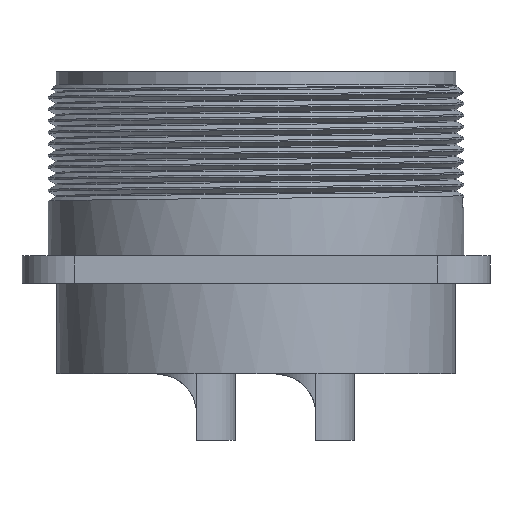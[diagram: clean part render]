
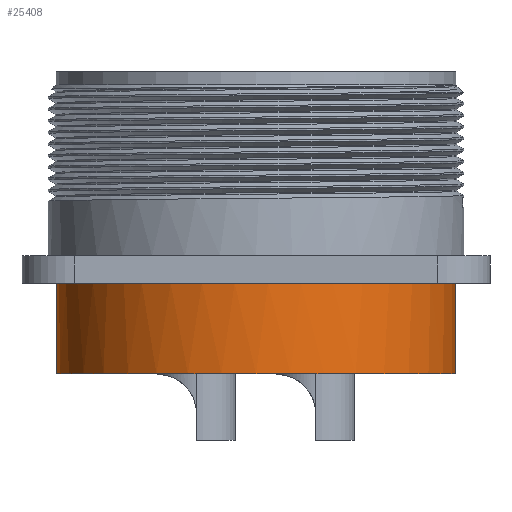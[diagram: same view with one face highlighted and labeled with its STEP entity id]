
A CAD part, front view. The second image highlights one B-rep face of the part: STEP entity #25408.
In plain terms, the highlighted cylindrical face has radius 24.21 mm (diameter 48.42 mm), a partial arc.
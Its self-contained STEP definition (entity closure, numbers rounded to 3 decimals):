
#360 = CARTESIAN_POINT ( 'NONE',  ( -24.21, 0., -14.35 ) ) ;
#706 = DIRECTION ( 'NONE',  ( 1., 0., 0. ) ) ;
#956 = LINE ( 'NONE', #5919, #10313 ) ;
#984 = CARTESIAN_POINT ( 'NONE',  ( -13.886, -19.832, -2.75 ) ) ;
#1073 = DIRECTION ( 'NONE',  ( 0., 0., -1. ) ) ;
#1591 = DIRECTION ( 'NONE',  ( 1., 0., 0. ) ) ;
#3908 = DIRECTION ( 'NONE',  ( 0., 0., -1. ) ) ;
#3914 = EDGE_CURVE ( 'NONE', #24653, #7692, #5924, .T. ) ;
#4337 = EDGE_LOOP ( 'NONE', ( #5739, #10620, #16962, #23528, #12303, #22344, #20533, #25147 ) ) ;
#4575 = VERTEX_POINT ( 'NONE', #19352 ) ;
#4648 = VERTEX_POINT ( 'NONE', #11725 ) ;
#4936 = AXIS2_PLACEMENT_3D ( 'NONE', #5841, #19723, #7846 ) ;
#5612 = EDGE_CURVE ( 'NONE', #23437, #5641, #7422, .T. ) ;
#5641 = VERTEX_POINT ( 'NONE', #13654 ) ;
#5730 = CARTESIAN_POINT ( 'NONE',  ( 24.21, 0., 24.16 ) ) ;
#5739 = ORIENTED_EDGE ( 'NONE', *, *, #7825, .F. ) ;
#5841 = CARTESIAN_POINT ( 'NONE',  ( 0., 0., -3.35 ) ) ;
#5919 = CARTESIAN_POINT ( 'NONE',  ( -19.832, -13.886, -2.75 ) ) ;
#5924 = CIRCLE ( 'NONE', #23874, 24.21 ) ;
#6202 = DIRECTION ( 'NONE',  ( 0., 0., 1. ) ) ;
#6945 = AXIS2_PLACEMENT_3D ( 'NONE', #25426, #13519, #1591 ) ;
#7422 = CIRCLE ( 'NONE', #4936, 24.21 ) ;
#7615 = LINE ( 'NONE', #16299, #16940 ) ;
#7692 = VERTEX_POINT ( 'NONE', #15868 ) ;
#7825 = EDGE_CURVE ( 'NONE', #24653, #4575, #7615, .T. ) ;
#7846 = DIRECTION ( 'NONE',  ( -1., 0., 0. ) ) ;
#7903 = AXIS2_PLACEMENT_3D ( 'NONE', #18089, #6202, #20105 ) ;
#8478 = FACE_OUTER_BOUND ( 'NONE', #4337, .T. ) ;
#9517 = CIRCLE ( 'NONE', #7903, 24.21 ) ;
#10313 = VECTOR ( 'NONE', #3908, 1000. ) ;
#10620 = ORIENTED_EDGE ( 'NONE', *, *, #3914, .T. ) ;
#11421 = CARTESIAN_POINT ( 'NONE',  ( 0., 0., -3.35 ) ) ;
#11509 = EDGE_CURVE ( 'NONE', #19256, #23437, #25518, .T. ) ;
#11725 = CARTESIAN_POINT ( 'NONE',  ( -19.832, -13.886, -3.35 ) ) ;
#12031 = CARTESIAN_POINT ( 'NONE',  ( -19.832, -13.886, -2.75 ) ) ;
#12174 = LINE ( 'NONE', #5730, #18675 ) ;
#12303 = ORIENTED_EDGE ( 'NONE', *, *, #11509, .F. ) ;
#12637 = DIRECTION ( 'NONE',  ( 0., 0., 1. ) ) ;
#13406 = DIRECTION ( 'NONE',  ( -1., 0., 0. ) ) ;
#13519 = DIRECTION ( 'NONE',  ( 0., 0., 1. ) ) ;
#13654 = CARTESIAN_POINT ( 'NONE',  ( 24.21, 0., -3.35 ) ) ;
#14222 = DIRECTION ( 'NONE',  ( 0., 0., 1. ) ) ;
#15621 = EDGE_CURVE ( 'NONE', #4575, #4648, #16354, .T. ) ;
#15728 = DIRECTION ( 'NONE',  ( 0., 0., 1. ) ) ;
#15868 = CARTESIAN_POINT ( 'NONE',  ( 24.21, 0., -14.35 ) ) ;
#16187 = VECTOR ( 'NONE', #1073, 1000. ) ;
#16218 = CARTESIAN_POINT ( 'NONE',  ( -13.886, -19.832, -2.75 ) ) ;
#16222 = EDGE_CURVE ( 'NONE', #24549, #4648, #956, .T. ) ;
#16299 = CARTESIAN_POINT ( 'NONE',  ( -24.21, 0., 24.16 ) ) ;
#16354 = CIRCLE ( 'NONE', #24883, 24.21 ) ;
#16940 = VECTOR ( 'NONE', #14222, 1000. ) ;
#16962 = ORIENTED_EDGE ( 'NONE', *, *, #17728, .T. ) ;
#17728 = EDGE_CURVE ( 'NONE', #7692, #5641, #12174, .T. ) ;
#18089 = CARTESIAN_POINT ( 'NONE',  ( 0., 0., -2.75 ) ) ;
#18675 = VECTOR ( 'NONE', #15728, 1000. ) ;
#19256 = VERTEX_POINT ( 'NONE', #16218 ) ;
#19352 = CARTESIAN_POINT ( 'NONE',  ( -24.21, 0., -3.35 ) ) ;
#19723 = DIRECTION ( 'NONE',  ( 0., 0., 1. ) ) ;
#20105 = DIRECTION ( 'NONE',  ( -1., 0., 0. ) ) ;
#20533 = ORIENTED_EDGE ( 'NONE', *, *, #16222, .T. ) ;
#22074 = EDGE_CURVE ( 'NONE', #24549, #19256, #9517, .T. ) ;
#22344 = ORIENTED_EDGE ( 'NONE', *, *, #22074, .F. ) ;
#22454 = CYLINDRICAL_SURFACE ( 'NONE', #6945, 24.21 ) ;
#23437 = VERTEX_POINT ( 'NONE', #25205 ) ;
#23528 = ORIENTED_EDGE ( 'NONE', *, *, #5612, .F. ) ;
#23874 = AXIS2_PLACEMENT_3D ( 'NONE', #24536, #12637, #706 ) ;
#24536 = CARTESIAN_POINT ( 'NONE',  ( 0., 0., -14.35 ) ) ;
#24549 = VERTEX_POINT ( 'NONE', #12031 ) ;
#24653 = VERTEX_POINT ( 'NONE', #360 ) ;
#24883 = AXIS2_PLACEMENT_3D ( 'NONE', #11421, #25316, #13406 ) ;
#25147 = ORIENTED_EDGE ( 'NONE', *, *, #15621, .F. ) ;
#25205 = CARTESIAN_POINT ( 'NONE',  ( -13.886, -19.832, -3.35 ) ) ;
#25316 = DIRECTION ( 'NONE',  ( 0., 0., 1. ) ) ;
#25408 = ADVANCED_FACE ( 'NONE', ( #8478 ), #22454, .T. ) ;
#25426 = CARTESIAN_POINT ( 'NONE',  ( 0., 0., 24.16 ) ) ;
#25518 = LINE ( 'NONE', #984, #16187 ) ;
